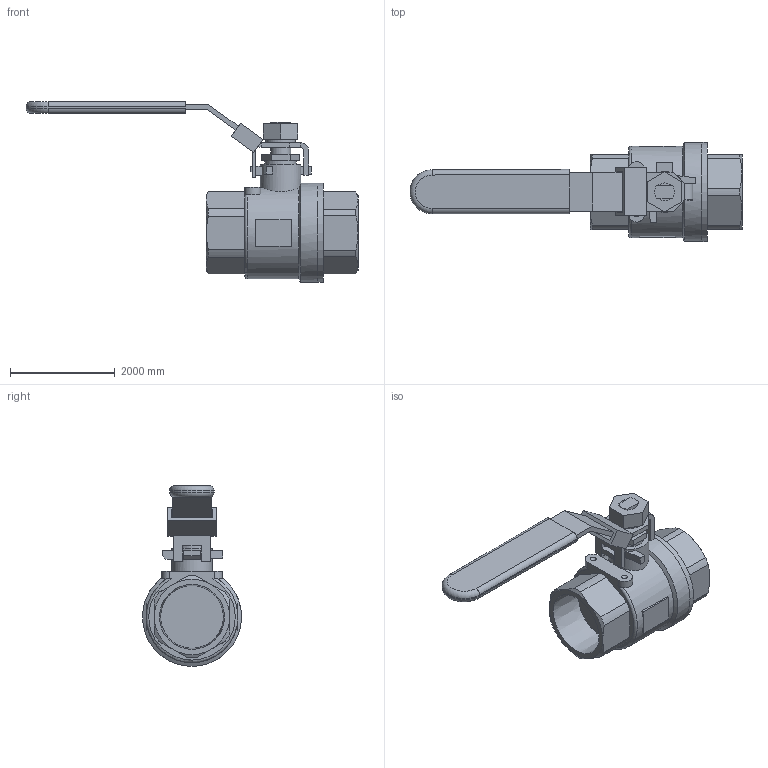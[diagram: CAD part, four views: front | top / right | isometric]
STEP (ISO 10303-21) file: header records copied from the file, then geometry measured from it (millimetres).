
FILE_DESCRIPTION(/* description */ (''),/* implementation_level */ '2;1');
FILE_NAME(/* name */ '\\E21APPSVR\Data\Technical Support\Private\Jomar Valve CAD\Ball Valves\CS and SS\T-SS-900N\1.0 T-SS-900N (100-905).stp',/* time_stamp */ '2018-07-02T10:30:28-04:00',/* author */ ('nick.miller'),/* organization */ (''),/* preprocessor_version */ 'ST-DEVELOPER v16.5',/* originating_system */ 'Autodesk Inventor 2017',/* authorisation */ '');
FILE_SCHEMA (('AUTOMOTIVE_DESIGN { 1 0 10303 214 3 1 1 }'));
Length unit declared in the file: inch
Products named in the file (11): 1.0 T-SS-900N (100-905); 1.0 T-SS-900N (100-905)_1; 1.0 T-SS-900N (100-905)_1_1; 1.0 T-SS-900N (100-905)_2; 1.0 T-SS-900N (100-905)_3; 1.0 T-SS-900N (100-905)_4; 1.0 T-SS-900N (100-905)_5; 1.0 T-SS-900N (100-905)_6; 1.0 T-SS-900N (100-905)_7; 1.0 T-SS-900N (100-905)_8; 1.0 T-SS-900N (100-905)_9
Assembly tree (10 placements, depth 2):
  1.0 T-SS-900N (100-905)
    1.0 T-SS-900N (100-905)_1
    1.0 T-SS-900N (100-905)_1_1
    1.0 T-SS-900N (100-905)_2
    1.0 T-SS-900N (100-905)_3
    1.0 T-SS-900N (100-905)_4
    1.0 T-SS-900N (100-905)_5
    1.0 T-SS-900N (100-905)_6
    1.0 T-SS-900N (100-905)_7
    1.0 T-SS-900N (100-905)_8
    1.0 T-SS-900N (100-905)_9
Bounding box: 6337.5 x 1890 x 3451.02 mm (x, y, z)
Volume: 6184823935.7 mm3; surface area: 55858083.9 mm2
Topology: 10 solids, 10 shells, 197 faces, 475 edges, 309 vertices
Faces by surface type: plane 142, cylinder 35, cone 17, torus 3
Full cylindrical faces by diameter (mm): 340 x1, 385 x1, 410 x1, 570 x1, 600 x1, 775 x1, 1890 x2
Entity records: 6213 total; most frequent: CARTESIAN_POINT 1293, DIRECTION 981, ORIENTED_EDGE 918, EDGE_CURVE 459, AXIS2_PLACEMENT_3D 340, VERTEX_POINT 305, LINE 301, VECTOR 301
